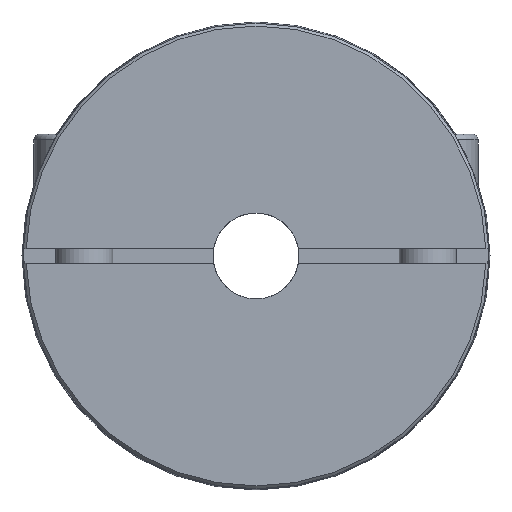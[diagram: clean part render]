
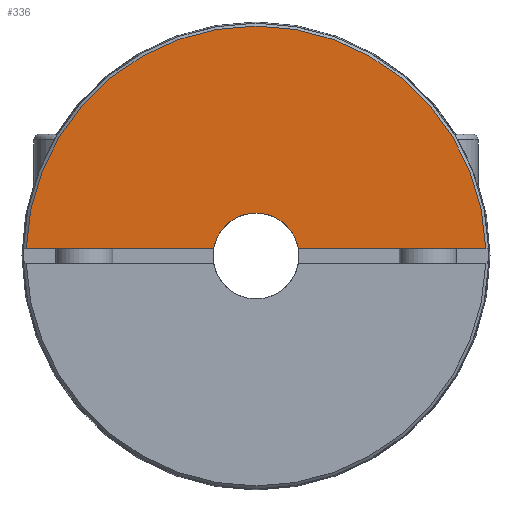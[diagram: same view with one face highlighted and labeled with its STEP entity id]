
A CAD part, left-side view. The second image highlights one B-rep face of the part: STEP entity #336.
In plain terms, the highlighted planar face has unit normal (-1, 0, 0) as drawn and (1, 0, 0) by its records, which use the part's own axes.
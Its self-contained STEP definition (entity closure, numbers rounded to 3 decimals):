
#336 = ADVANCED_FACE( '', ( #680 ), #681, .T. );
#680 = FACE_OUTER_BOUND( '', #1089, .T. );
#681 = PLANE( '', #1090 );
#1089 = EDGE_LOOP( '', ( #1609, #1610, #1611, #1612 ) );
#1090 = AXIS2_PLACEMENT_3D( '', #1613, #1614, #1615 );
#1609 = ORIENTED_EDGE( '', *, *, #2150, .F. );
#1610 = ORIENTED_EDGE( '', *, *, #2151, .T. );
#1611 = ORIENTED_EDGE( '', *, *, #2152, .F. );
#1612 = ORIENTED_EDGE( '', *, *, #2153, .T. );
#1613 = CARTESIAN_POINT( '', ( 13., 0., 16.25 ) );
#1614 = DIRECTION( '', ( 1., 0., 0. ) );
#1615 = DIRECTION( '', ( 0., 0., -1. ) );
#2150 = EDGE_CURVE( '', #2478, #2479, #2480, .T. );
#2151 = EDGE_CURVE( '', #2478, #2481, #2482, .T. );
#2152 = EDGE_CURVE( '', #2483, #2481, #2484, .T. );
#2153 = EDGE_CURVE( '', #2483, #2479, #2485, .T. );
#2478 = VERTEX_POINT( '', #3033 );
#2479 = VERTEX_POINT( '', #3034 );
#2480 = LINE( '', #3035, #3036 );
#2481 = VERTEX_POINT( '', #3037 );
#2482 = CIRCLE( '', #3038, 16.05 );
#2483 = VERTEX_POINT( '', #3039 );
#2484 = LINE( '', #3040, #3041 );
#2485 = CIRCLE( '', #3042, 3. );
#3033 = CARTESIAN_POINT( '', ( 13., 16.042, 0.5 ) );
#3034 = CARTESIAN_POINT( '', ( 13., 2.958, 0.5 ) );
#3035 = CARTESIAN_POINT( '', ( 13., 0., 0.5 ) );
#3036 = VECTOR( '', #3463, 1000. );
#3037 = CARTESIAN_POINT( '', ( 13., -16.042, 0.5 ) );
#3038 = AXIS2_PLACEMENT_3D( '', #3464, #3465, #3466 );
#3039 = CARTESIAN_POINT( '', ( 13., -2.958, 0.5 ) );
#3040 = CARTESIAN_POINT( '', ( 13., 0., 0.5 ) );
#3041 = VECTOR( '', #3467, 1000. );
#3042 = AXIS2_PLACEMENT_3D( '', #3468, #3469, #3470 );
#3463 = DIRECTION( '', ( 0., -1., 0. ) );
#3464 = CARTESIAN_POINT( '', ( 13., 0., 0. ) );
#3465 = DIRECTION( '', ( 1., 0., 0. ) );
#3466 = DIRECTION( '', ( 0., 0., -1. ) );
#3467 = DIRECTION( '', ( 0., -1., 0. ) );
#3468 = CARTESIAN_POINT( '', ( 13., 0., 0. ) );
#3469 = DIRECTION( '', ( -1., 0., 0. ) );
#3470 = DIRECTION( '', ( 0., 0., 1. ) );
